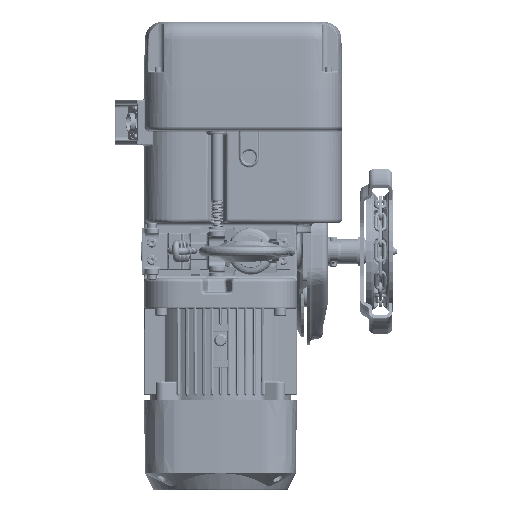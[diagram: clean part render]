
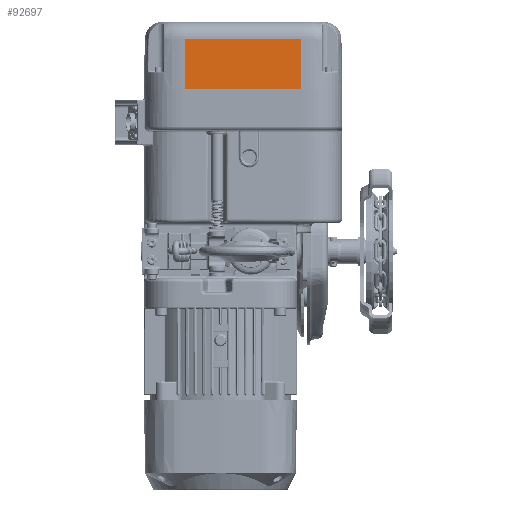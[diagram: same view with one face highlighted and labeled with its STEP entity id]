
A CAD part, front view. The second image highlights one B-rep face of the part: STEP entity #92697.
In plain terms, the highlighted planar face has unit normal (0, -1, 0.018).
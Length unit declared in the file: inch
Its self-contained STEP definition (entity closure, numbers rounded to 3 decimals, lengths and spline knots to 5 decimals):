
#1970 = VERTEX_POINT ( 'NONE', #180325 ) ;
#11477 = VECTOR ( 'NONE', #47977, 39.37008 ) ;
#12929 = LINE ( 'NONE', #268144, #176656 ) ;
#20200 = ORIENTED_EDGE ( 'NONE', *, *, #221555, .T. ) ;
#24684 = CARTESIAN_POINT ( 'NONE',  ( 0., -4.74409, 0. ) ) ;
#25541 = VERTEX_POINT ( 'NONE', #98194 ) ;
#32494 = DIRECTION ( 'NONE',  ( 0., -0.017, -1. ) ) ;
#37295 = EDGE_CURVE ( 'NONE', #1970, #25541, #12929, .T. ) ;
#44658 = EDGE_LOOP ( 'NONE', ( #212325, #20200, #55079, #151173 ) ) ;
#47977 = DIRECTION ( 'NONE',  ( -1., 0., 0. ) ) ;
#52918 = EDGE_CURVE ( 'NONE', #271472, #25541, #192082, .T. ) ;
#55079 = ORIENTED_EDGE ( 'NONE', *, *, #37295, .T. ) ;
#82647 = CARTESIAN_POINT ( 'NONE',  ( 0., -4.74409, 0. ) ) ;
#92697 = ADVANCED_FACE ( 'NONE', ( #146765 ), #103569, .T. ) ;
#98194 = CARTESIAN_POINT ( 'NONE',  ( -3.4341, -4.74409, 0. ) ) ;
#103569 = PLANE ( 'NONE',  #138849 ) ;
#111175 = VERTEX_POINT ( 'NONE', #176838 ) ;
#114825 = LINE ( 'NONE', #199892, #152470 ) ;
#128949 = LINE ( 'NONE', #239068, #11477 ) ;
#138849 = AXIS2_PLACEMENT_3D ( 'NONE', #82647, #275074, #273692 ) ;
#146765 = FACE_OUTER_BOUND ( 'NONE', #44658, .T. ) ;
#151173 = ORIENTED_EDGE ( 'NONE', *, *, #52918, .F. ) ;
#152470 = VECTOR ( 'NONE', #166256, 39.37008 ) ;
#166256 = DIRECTION ( 'NONE',  ( 0., -0.017, -1. ) ) ;
#176656 = VECTOR ( 'NONE', #32494, 39.37008 ) ;
#176838 = CARTESIAN_POINT ( 'NONE',  ( 3.4341, -4.69293, 2.93125 ) ) ;
#180325 = CARTESIAN_POINT ( 'NONE',  ( -3.4341, -4.69293, 2.93125 ) ) ;
#192082 = LINE ( 'NONE', #24684, #217196 ) ;
#199892 = CARTESIAN_POINT ( 'NONE',  ( 3.4341, -4.74409, 0. ) ) ;
#212325 = ORIENTED_EDGE ( 'NONE', *, *, #256352, .F. ) ;
#215762 = DIRECTION ( 'NONE',  ( -1., 0., 0. ) ) ;
#217196 = VECTOR ( 'NONE', #215762, 39.37008 ) ;
#221555 = EDGE_CURVE ( 'NONE', #111175, #1970, #128949, .T. ) ;
#239068 = CARTESIAN_POINT ( 'NONE',  ( 0., -4.69293, 2.93125 ) ) ;
#256352 = EDGE_CURVE ( 'NONE', #111175, #271472, #114825, .T. ) ;
#268144 = CARTESIAN_POINT ( 'NONE',  ( -3.4341, -4.74409, 0. ) ) ;
#268797 = CARTESIAN_POINT ( 'NONE',  ( 3.4341, -4.74409, 0. ) ) ;
#271472 = VERTEX_POINT ( 'NONE', #268797 ) ;
#273692 = DIRECTION ( 'NONE',  ( 0., -0.017, -1. ) ) ;
#275074 = DIRECTION ( 'NONE',  ( 0., -1., 0.017 ) ) ;
